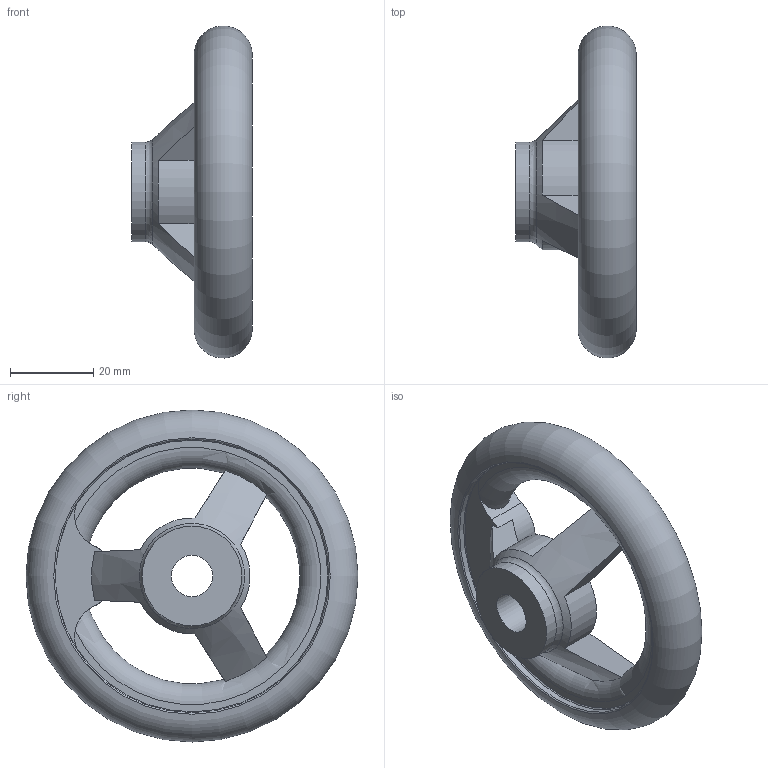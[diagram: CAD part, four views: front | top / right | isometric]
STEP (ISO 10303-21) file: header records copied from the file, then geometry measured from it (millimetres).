
FILE_DESCRIPTION( ( 'STEP AP203' ), '1' );
FILE_NAME( 'C:/Temp/Ganter_Step_05_03_2020/data/1_3/din_950/din_950_b/din_950_b_a/Handwheel DIN 950-AL-80-B10-A.stp', '2020-03-05T10:29:12', ( 'License CC BY-ND 4.0' ), ( 'CADENAS' ), ' ', 'PARTsolutions', ' ' );
FILE_SCHEMA( ( 'CONFIG_CONTROL_DESIGN' ) );
Length unit declared in the file: millimetre
Products named in the file (1): _Handwheel DIN 950-AL-80-B10-A
Bounding box: 29 x 79.98 x 79.98 mm (x, y, z)
Volume: 39946 mm3; surface area: 13755.6 mm2
Topology: 1 solids, 1 shells, 35 faces, 101 edges, 64 vertices
Faces by surface type: plane 12, cylinder 11, torus 10, cone 2
Full cylindrical faces by diameter (mm): 10 x1, 24 x2, 66 x2
Entity records: 1354 total; most frequent: CARTESIAN_POINT 471, DIRECTION 172, ORIENTED_EDGE 166, EDGE_CURVE 83, AXIS2_PLACEMENT_3D 80, VERTEX_POINT 61, EDGE_LOOP 53, FACE_OUTER_BOUND 47
